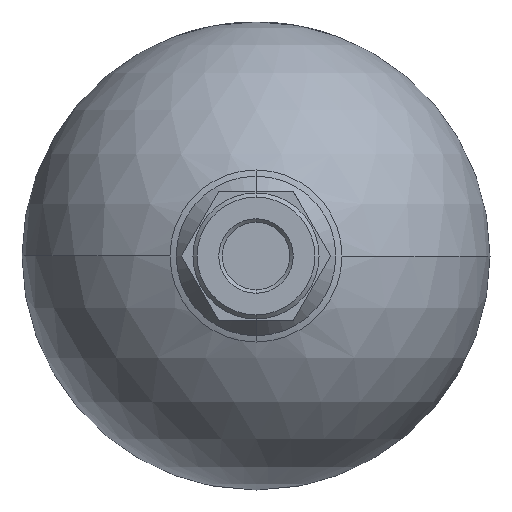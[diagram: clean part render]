
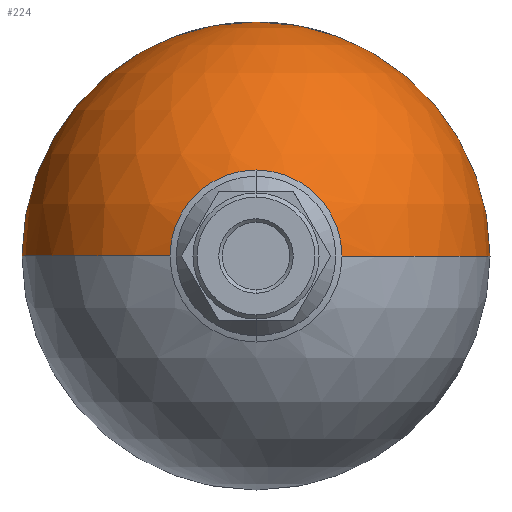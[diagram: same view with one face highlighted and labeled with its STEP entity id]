
A CAD part, front view. The second image highlights one B-rep face of the part: STEP entity #224.
In plain terms, the highlighted spherical face has radius 83.5 mm.
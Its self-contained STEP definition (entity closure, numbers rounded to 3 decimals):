
#17 = CARTESIAN_POINT ( 'NONE',  ( 0., -46.5, 0. ) ) ;
#38 = DIRECTION ( 'NONE',  ( 0., 0., -1. ) ) ;
#144 = AXIS2_PLACEMENT_3D ( 'NONE', #11509, #6950, #7970 ) ;
#164 = VERTEX_POINT ( 'NONE', #9055 ) ;
#224 = ADVANCED_FACE ( 'NONE', ( #4388 ), #8235, .T. ) ;
#594 = VERTEX_POINT ( 'NONE', #9275 ) ;
#1707 = EDGE_LOOP ( 'NONE', ( #6665, #9594, #10018, #10433, #10115, #10640 ) ) ;
#1758 = DIRECTION ( 'NONE',  ( 1., 0., 0. ) ) ;
#1849 = CIRCLE ( 'NONE', #10459, 83.5 ) ;
#2258 = CIRCLE ( 'NONE', #6449, 30.691 ) ;
#3150 = DIRECTION ( 'NONE',  ( 0., -1., 0. ) ) ;
#3524 = CARTESIAN_POINT ( 'NONE',  ( 0., -46.5, 0. ) ) ;
#3537 = EDGE_CURVE ( 'NONE', #10692, #7721, #1849, .T. ) ;
#3726 = EDGE_CURVE ( 'NONE', #8872, #8702, #2258, .T. ) ;
#3746 = CARTESIAN_POINT ( 'NONE',  ( 0., -46.5, 0. ) ) ;
#3796 = AXIS2_PLACEMENT_3D ( 'NONE', #9506, #4000, #10217 ) ;
#4000 = DIRECTION ( 'NONE',  ( 0., 0., 1. ) ) ;
#4012 = DIRECTION ( 'NONE',  ( 0., 0., -1. ) ) ;
#4190 = CARTESIAN_POINT ( 'NONE',  ( 30.691, -124.155, 0. ) ) ;
#4221 = CARTESIAN_POINT ( 'NONE',  ( 0., -124.155, 0. ) ) ;
#4388 = FACE_OUTER_BOUND ( 'NONE', #1707, .T. ) ;
#4470 = CARTESIAN_POINT ( 'NONE',  ( 0., -124.155, 30.691 ) ) ;
#4535 = EDGE_CURVE ( 'NONE', #7721, #594, #8515, .T. ) ;
#4557 = DIRECTION ( 'NONE',  ( 0., 0., 1. ) ) ;
#4856 = AXIS2_PLACEMENT_3D ( 'NONE', #3746, #11169, #5777 ) ;
#5777 = DIRECTION ( 'NONE',  ( 0., 0., -1. ) ) ;
#6449 = AXIS2_PLACEMENT_3D ( 'NONE', #4221, #3150, #9500 ) ;
#6665 = ORIENTED_EDGE ( 'NONE', *, *, #3537, .T. ) ;
#6829 = AXIS2_PLACEMENT_3D ( 'NONE', #3524, #38, #8135 ) ;
#6846 = EDGE_CURVE ( 'NONE', #10692, #8872, #9502, .T. ) ;
#6950 = DIRECTION ( 'NONE',  ( 0., -1., 0. ) ) ;
#7721 = VERTEX_POINT ( 'NONE', #11283 ) ;
#7808 = CARTESIAN_POINT ( 'NONE',  ( 83.5, -46.5, 0. ) ) ;
#7970 = DIRECTION ( 'NONE',  ( 0., 0., -1. ) ) ;
#8135 = DIRECTION ( 'NONE',  ( -1., 0., 0. ) ) ;
#8235 = SPHERICAL_SURFACE ( 'NONE', #10690, 83.5 ) ;
#8515 = CIRCLE ( 'NONE', #4856, 83.5 ) ;
#8702 = VERTEX_POINT ( 'NONE', #4470 ) ;
#8872 = VERTEX_POINT ( 'NONE', #4190 ) ;
#8873 = EDGE_CURVE ( 'NONE', #8702, #164, #11247, .T. ) ;
#8977 = CIRCLE ( 'NONE', #3796, 83.5 ) ;
#9055 = CARTESIAN_POINT ( 'NONE',  ( -30.691, -124.155, 0. ) ) ;
#9275 = CARTESIAN_POINT ( 'NONE',  ( -83.5, -46.5, 0. ) ) ;
#9500 = DIRECTION ( 'NONE',  ( 0., 0., -1. ) ) ;
#9502 = CIRCLE ( 'NONE', #6829, 83.5 ) ;
#9506 = CARTESIAN_POINT ( 'NONE',  ( 0., -46.5, 0. ) ) ;
#9594 = ORIENTED_EDGE ( 'NONE', *, *, #4535, .T. ) ;
#10018 = ORIENTED_EDGE ( 'NONE', *, *, #11145, .T. ) ;
#10115 = ORIENTED_EDGE ( 'NONE', *, *, #3726, .F. ) ;
#10217 = DIRECTION ( 'NONE',  ( 1., 0., 0. ) ) ;
#10433 = ORIENTED_EDGE ( 'NONE', *, *, #8873, .F. ) ;
#10459 = AXIS2_PLACEMENT_3D ( 'NONE', #10584, #11317, #4012 ) ;
#10584 = CARTESIAN_POINT ( 'NONE',  ( 0., -46.5, 0. ) ) ;
#10640 = ORIENTED_EDGE ( 'NONE', *, *, #6846, .F. ) ;
#10690 = AXIS2_PLACEMENT_3D ( 'NONE', #17, #4557, #1758 ) ;
#10692 = VERTEX_POINT ( 'NONE', #7808 ) ;
#11145 = EDGE_CURVE ( 'NONE', #594, #164, #8977, .T. ) ;
#11169 = DIRECTION ( 'NONE',  ( 0., -1., 0. ) ) ;
#11247 = CIRCLE ( 'NONE', #144, 30.691 ) ;
#11283 = CARTESIAN_POINT ( 'NONE',  ( 0., -46.5, 83.5 ) ) ;
#11317 = DIRECTION ( 'NONE',  ( 0., -1., 0. ) ) ;
#11509 = CARTESIAN_POINT ( 'NONE',  ( 0., -124.155, 0. ) ) ;
